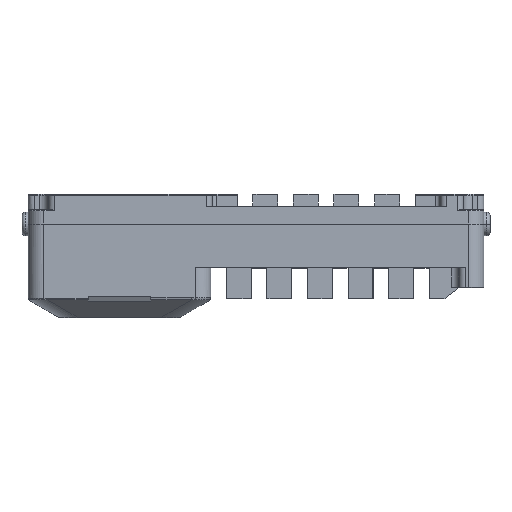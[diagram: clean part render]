
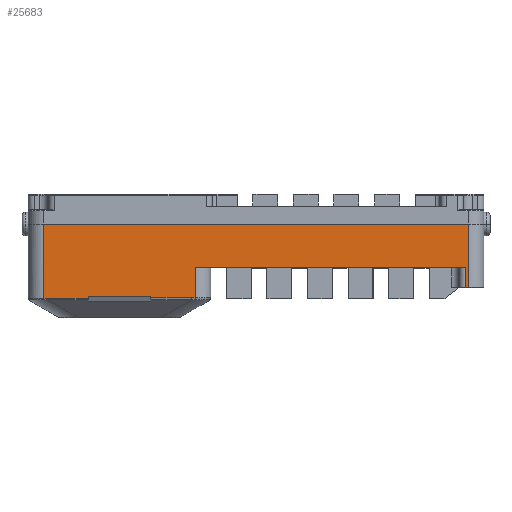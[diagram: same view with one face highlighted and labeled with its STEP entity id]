
A CAD part, front view. The second image highlights one B-rep face of the part: STEP entity #25683.
In plain terms, the highlighted planar face has unit normal (0, -1, 0).
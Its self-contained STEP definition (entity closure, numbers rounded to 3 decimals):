
#270 = EDGE_CURVE ( 'NONE', #48459, #42826, #50941, .T. ) ;
#451 = CARTESIAN_POINT ( 'NONE',  ( -33.75, -37., 6.774 ) ) ;
#514 = DIRECTION ( 'NONE',  ( 0., 0., -1. ) ) ;
#531 = VECTOR ( 'NONE', #24618, 1000. ) ;
#827 = LINE ( 'NONE', #24899, #18157 ) ;
#884 = CARTESIAN_POINT ( 'NONE',  ( -66.873, -37., 6.112 ) ) ;
#1127 = VERTEX_POINT ( 'NONE', #25338 ) ;
#1444 = CARTESIAN_POINT ( 'NONE',  ( 67., -37., 16.2 ) ) ;
#2554 = ORIENTED_EDGE ( 'NONE', *, *, #2685, .F. ) ;
#2652 = CARTESIAN_POINT ( 'NONE',  ( 68., -37., 30. ) ) ;
#2685 = EDGE_CURVE ( 'NONE', #43367, #26929, #48284, .T. ) ;
#3131 = CARTESIAN_POINT ( 'NONE',  ( -20.673, -37., 6.32 ) ) ;
#5108 = ORIENTED_EDGE ( 'NONE', *, *, #16161, .F. ) ;
#5175 = PLANE ( 'NONE',  #39878 ) ;
#5360 = CARTESIAN_POINT ( 'NONE',  ( -66.873, -37., 6.112 ) ) ;
#5705 = DIRECTION ( 'NONE',  ( 0., 1., 0. ) ) ;
#6049 = LINE ( 'NONE', #9452, #43686 ) ;
#6097 = CARTESIAN_POINT ( 'NONE',  ( -19.5, -37., 6.359 ) ) ;
#6581 = LINE ( 'NONE', #2652, #30966 ) ;
#8731 = CARTESIAN_POINT ( 'NONE',  ( 68., -37., 30. ) ) ;
#8911 = LINE ( 'NONE', #12074, #531 ) ;
#9257 = DIRECTION ( 'NONE',  ( 1., 0., 0. ) ) ;
#9452 = CARTESIAN_POINT ( 'NONE',  ( -20.5, -37., 6.32 ) ) ;
#10018 = CARTESIAN_POINT ( 'NONE',  ( -19.896, -37., 6.333 ) ) ;
#10507 = VECTOR ( 'NONE', #36166, 1000. ) ;
#12074 = CARTESIAN_POINT ( 'NONE',  ( 67., -37., 30. ) ) ;
#12416 = VERTEX_POINT ( 'NONE', #5360 ) ;
#13027 = EDGE_CURVE ( 'NONE', #42597, #32471, #16961, .T. ) ;
#13699 = CARTESIAN_POINT ( 'NONE',  ( -68., -37., 6.148 ) ) ;
#14587 = CARTESIAN_POINT ( 'NONE',  ( -53.75, -37., 6.774 ) ) ;
#15218 = EDGE_CURVE ( 'NONE', #12416, #20030, #21564, .T. ) ;
#15503 = CARTESIAN_POINT ( 'NONE',  ( 67., -37., 16.2 ) ) ;
#15506 = ORIENTED_EDGE ( 'NONE', *, *, #24558, .T. ) ;
#15657 = EDGE_CURVE ( 'NONE', #1127, #27444, #827, .T. ) ;
#15837 = ORIENTED_EDGE ( 'NONE', *, *, #270, .T. ) ;
#16161 = EDGE_CURVE ( 'NONE', #26929, #20030, #25609, .T. ) ;
#16412 = DIRECTION ( 'NONE',  ( -1., 0., 0. ) ) ;
#16848 = CARTESIAN_POINT ( 'NONE',  ( -19.5, -37., 16.2 ) ) ;
#16961 = LINE ( 'NONE', #15503, #29512 ) ;
#17562 = DIRECTION ( 'NONE',  ( 1., 0., 0. ) ) ;
#18138 = ORIENTED_EDGE ( 'NONE', *, *, #29917, .T. ) ;
#18157 = VECTOR ( 'NONE', #25412, 1000. ) ;
#18179 = CARTESIAN_POINT ( 'NONE',  ( -33.75, -37., 6.32 ) ) ;
#18612 = DIRECTION ( 'NONE',  ( 0., 0., 1. ) ) ;
#19420 = DIRECTION ( 'NONE',  ( 1., 0., 0. ) ) ;
#20030 = VERTEX_POINT ( 'NONE', #26154 ) ;
#20782 = CARTESIAN_POINT ( 'NONE',  ( -67.62, -37., 6.124 ) ) ;
#21514 = VECTOR ( 'NONE', #514, 1000. ) ;
#21564 = LINE ( 'NONE', #45841, #36466 ) ;
#21698 = CARTESIAN_POINT ( 'NONE',  ( -53.75, -37., 5.774 ) ) ;
#21799 = ORIENTED_EDGE ( 'NONE', *, *, #27381, .T. ) ;
#21985 = LINE ( 'NONE', #49921, #22574 ) ;
#22574 = VECTOR ( 'NONE', #37910, 1000. ) ;
#22666 = EDGE_CURVE ( 'NONE', #35514, #48459, #6049, .T. ) ;
#23277 = ORIENTED_EDGE ( 'NONE', *, *, #44312, .T. ) ;
#24558 = EDGE_CURVE ( 'NONE', #43367, #35514, #37005, .T. ) ;
#24618 = DIRECTION ( 'NONE',  ( 0., 0., -1. ) ) ;
#24899 = CARTESIAN_POINT ( 'NONE',  ( 73., -37., 30. ) ) ;
#25232 = ORIENTED_EDGE ( 'NONE', *, *, #25267, .T. ) ;
#25267 = EDGE_CURVE ( 'NONE', #47816, #47993, #21985, .T. ) ;
#25321 = FACE_OUTER_BOUND ( 'NONE', #42101, .T. ) ;
#25338 = CARTESIAN_POINT ( 'NONE',  ( -68., -37., 30. ) ) ;
#25412 = DIRECTION ( 'NONE',  ( 1., 0., 0. ) ) ;
#25609 = LINE ( 'NONE', #21698, #21514 ) ;
#25683 = ADVANCED_FACE ( 'NONE', ( #25321 ), #5175, .F. ) ;
#25837 = DIRECTION ( 'NONE',  ( -1., 0., 0. ) ) ;
#25972 = CARTESIAN_POINT ( 'NONE',  ( -20.673, -37., 6.32 ) ) ;
#26154 = CARTESIAN_POINT ( 'NONE',  ( -53.75, -37., 6.112 ) ) ;
#26929 = VERTEX_POINT ( 'NONE', #14587 ) ;
#27381 = EDGE_CURVE ( 'NONE', #47980, #12416, #36646, .T. ) ;
#27444 = VERTEX_POINT ( 'NONE', #8731 ) ;
#29114 = CARTESIAN_POINT ( 'NONE',  ( 68., -37., 9.7 ) ) ;
#29512 = VECTOR ( 'NONE', #19420, 1000. ) ;
#29917 = EDGE_CURVE ( 'NONE', #32471, #47816, #8911, .T. ) ;
#30370 = VECTOR ( 'NONE', #16412, 1000. ) ;
#30966 = VECTOR ( 'NONE', #18612, 1000. ) ;
#32471 = VERTEX_POINT ( 'NONE', #1444 ) ;
#33067 = VECTOR ( 'NONE', #39700, 1000. ) ;
#33314 = CARTESIAN_POINT ( 'NONE',  ( -67.244, -37., 6.112 ) ) ;
#34682 = LINE ( 'NONE', #35201, #47076 ) ;
#35165 = ORIENTED_EDGE ( 'NONE', *, *, #13027, .T. ) ;
#35201 = CARTESIAN_POINT ( 'NONE',  ( -68., -37., 30. ) ) ;
#35454 = ORIENTED_EDGE ( 'NONE', *, *, #15218, .T. ) ;
#35514 = VERTEX_POINT ( 'NONE', #18179 ) ;
#36099 = EDGE_CURVE ( 'NONE', #47993, #27444, #6581, .T. ) ;
#36166 = DIRECTION ( 'NONE',  ( 0., 0., 1. ) ) ;
#36466 = VECTOR ( 'NONE', #9257, 1000. ) ;
#36646 = B_SPLINE_CURVE_WITH_KNOTS ( 'NONE', 3,
 ( #13699, #20782, #33314, #884 ),
 .UNSPECIFIED., .F., .F.,
 ( 4, 4 ),
 ( 0., 1. ),
 .UNSPECIFIED. ) ;
#37005 = LINE ( 'NONE', #49015, #33067 ) ;
#37141 = ORIENTED_EDGE ( 'NONE', *, *, #36099, .T. ) ;
#37910 = DIRECTION ( 'NONE',  ( 1., 0., 0. ) ) ;
#39700 = DIRECTION ( 'NONE',  ( 0., 0., -1. ) ) ;
#39878 = AXIS2_PLACEMENT_3D ( 'NONE', #49089, #5705, #25837 ) ;
#41675 = CARTESIAN_POINT ( 'NONE',  ( -33.75, -37., 6.774 ) ) ;
#41909 = CARTESIAN_POINT ( 'NONE',  ( -20.287, -37., 6.32 ) ) ;
#42101 = EDGE_LOOP ( 'NONE', ( #51363, #15837, #42329, #35165, #18138, #25232, #37141, #45452, #23277, #21799, #35454, #5108, #2554, #15506 ) ) ;
#42329 = ORIENTED_EDGE ( 'NONE', *, *, #45837, .T. ) ;
#42597 = VERTEX_POINT ( 'NONE', #16848 ) ;
#42826 = VERTEX_POINT ( 'NONE', #45842 ) ;
#43367 = VERTEX_POINT ( 'NONE', #41675 ) ;
#43686 = VECTOR ( 'NONE', #17562, 1000. ) ;
#44312 = EDGE_CURVE ( 'NONE', #1127, #47980, #34682, .T. ) ;
#44508 = LINE ( 'NONE', #47413, #10507 ) ;
#44521 = CARTESIAN_POINT ( 'NONE',  ( 67., -37., 9.7 ) ) ;
#45452 = ORIENTED_EDGE ( 'NONE', *, *, #15657, .F. ) ;
#45837 = EDGE_CURVE ( 'NONE', #42826, #42597, #44508, .T. ) ;
#45841 = CARTESIAN_POINT ( 'NONE',  ( -53.75, -37., 6.112 ) ) ;
#45842 = CARTESIAN_POINT ( 'NONE',  ( -19.5, -37., 6.359 ) ) ;
#47076 = VECTOR ( 'NONE', #51124, 1000. ) ;
#47413 = CARTESIAN_POINT ( 'NONE',  ( -19.5, -37., 30. ) ) ;
#47816 = VERTEX_POINT ( 'NONE', #44521 ) ;
#47980 = VERTEX_POINT ( 'NONE', #49211 ) ;
#47993 = VERTEX_POINT ( 'NONE', #29114 ) ;
#48284 = LINE ( 'NONE', #451, #30370 ) ;
#48459 = VERTEX_POINT ( 'NONE', #3131 ) ;
#49015 = CARTESIAN_POINT ( 'NONE',  ( -33.75, -37., 5.774 ) ) ;
#49089 = CARTESIAN_POINT ( 'NONE',  ( 73., -37., 30. ) ) ;
#49211 = CARTESIAN_POINT ( 'NONE',  ( -68., -37., 6.148 ) ) ;
#49921 = CARTESIAN_POINT ( 'NONE',  ( 73., -37., 9.7 ) ) ;
#50941 = B_SPLINE_CURVE_WITH_KNOTS ( 'NONE', 3,
 ( #25972, #41909, #10018, #6097 ),
 .UNSPECIFIED., .F., .F.,
 ( 4, 4 ),
 ( 0., 1. ),
 .UNSPECIFIED. ) ;
#51124 = DIRECTION ( 'NONE',  ( 0., 0., -1. ) ) ;
#51363 = ORIENTED_EDGE ( 'NONE', *, *, #22666, .T. ) ;
